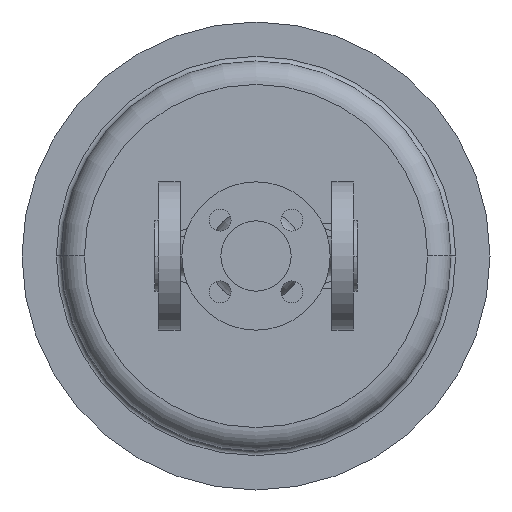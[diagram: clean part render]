
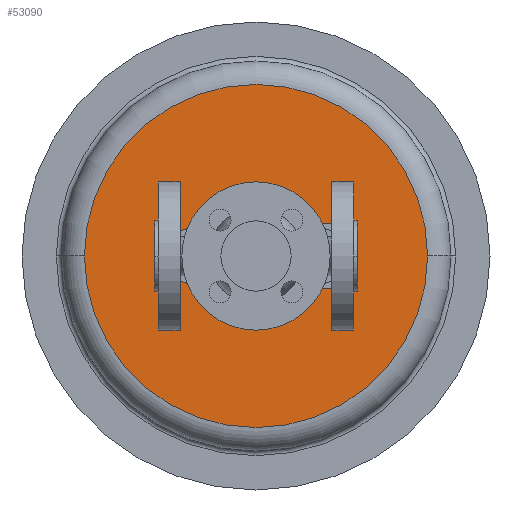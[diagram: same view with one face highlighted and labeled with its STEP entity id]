
A CAD part, front view. The second image highlights one B-rep face of the part: STEP entity #53090.
In plain terms, the highlighted planar face has unit normal (0, -1, 0).
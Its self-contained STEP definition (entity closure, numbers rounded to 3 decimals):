
#39170=CARTESIAN_POINT('',(175.,356.,0.));
#39180=VERTEX_POINT('',#39170);
#39280=CARTESIAN_POINT('',(-45.,356.,0.));
#39290=VERTEX_POINT('',#39280);
#39320=CARTESIAN_POINT('',(65.,356.,0.));
#39330=DIRECTION('',(0.,1.,0.));
#39340=DIRECTION('',(1.,0.,0.));
#39350=AXIS2_PLACEMENT_3D('',#39320,#39330,#39340);
#39360=CIRCLE('',#39350,110.);
#39370=CARTESIAN_POINT('',(65.,356.,-110.));
#39380=VERTEX_POINT('',#39370);
#39390=EDGE_CURVE('',#39380,#39290,#39360,.T.);
#39410=EDGE_CURVE('',#39180,#39380,#39360,.T.);
#39990=CARTESIAN_POINT('',(130.,356.,0.));
#40000=VERTEX_POINT('',#39990);
#40160=CARTESIAN_POINT('',(100.,356.,0.));
#40170=VERTEX_POINT('',#40160);
#40200=CARTESIAN_POINT('',(115.,356.,0.));
#40210=DIRECTION('',(0.,1.,0.));
#40220=DIRECTION('',(1.,0.,0.));
#40230=AXIS2_PLACEMENT_3D('',#40200,#40210,#40220);
#40240=CIRCLE('',#40230,15.);
#40250=EDGE_CURVE('',#40170,#40000,#40240,.T.);
#40410=CARTESIAN_POINT('',(30.,356.,0.));
#40420=VERTEX_POINT('',#40410);
#40580=CARTESIAN_POINT('',(0.,356.,0.));
#40590=VERTEX_POINT('',#40580);
#40620=CARTESIAN_POINT('',(15.,356.,0.));
#40630=DIRECTION('',(0.,1.,0.));
#40640=DIRECTION('',(1.,0.,0.));
#40650=AXIS2_PLACEMENT_3D('',#40620,#40630,#40640);
#40660=CIRCLE('',#40650,15.);
#40670=EDGE_CURVE('',#40590,#40420,#40660,.T.);
#40810=CARTESIAN_POINT('',(46.55,356.,0.));
#40820=VERTEX_POINT('',#40810);
#41000=CARTESIAN_POINT('',(83.45,356.,0.));
#41010=VERTEX_POINT('',#41000);
#41040=CARTESIAN_POINT('',(65.,356.,0.));
#41050=DIRECTION('',(0.,1.,0.));
#41060=DIRECTION('',(1.,0.,0.));
#41070=AXIS2_PLACEMENT_3D('',#41040,#41050,#41060);
#41080=CIRCLE('',#41070,18.45);
#41090=EDGE_CURVE('',#41010,#40820,#41080,.T.);
#52830=CARTESIAN_POINT('',(120.,356.,0.));
#52840=DIRECTION('',(0.,-1.,0.));
#52850=DIRECTION('',(-1.,0.,0.));
#52860=AXIS2_PLACEMENT_3D('',#52830,#52840,#52850);
#52870=PLANE('',#52860);
#52880=EDGE_CURVE('',#40820,#41010,#41080,.T.);
#52890=ORIENTED_EDGE('',*,*,#52880,.T.);
#52900=ORIENTED_EDGE('',*,*,#41090,.T.);
#52910=EDGE_LOOP('',(#52900,#52890));
#52920=FACE_BOUND('',#52910,.T.);
#52930=EDGE_CURVE('',#40420,#40590,#40660,.T.);
#52940=ORIENTED_EDGE('',*,*,#52930,.T.);
#52950=ORIENTED_EDGE('',*,*,#40670,.T.);
#52960=EDGE_LOOP('',(#52950,#52940));
#52970=FACE_BOUND('',#52960,.T.);
#52980=EDGE_CURVE('',#40000,#40170,#40240,.T.);
#52990=ORIENTED_EDGE('',*,*,#52980,.T.);
#53000=ORIENTED_EDGE('',*,*,#40250,.T.);
#53010=EDGE_LOOP('',(#53000,#52990));
#53020=FACE_BOUND('',#53010,.T.);
#53030=ORIENTED_EDGE('',*,*,#39390,.F.);
#53040=EDGE_CURVE('',#39290,#39180,#39360,.T.);
#53050=ORIENTED_EDGE('',*,*,#53040,.F.);
#53060=ORIENTED_EDGE('',*,*,#39410,.F.);
#53070=EDGE_LOOP('',(#53060,#53050,#53030));
#53080=FACE_OUTER_BOUND('',#53070,.T.);
#53090=ADVANCED_FACE('',(#52920,#52970,#53020,#53080),#52870,.T.);
